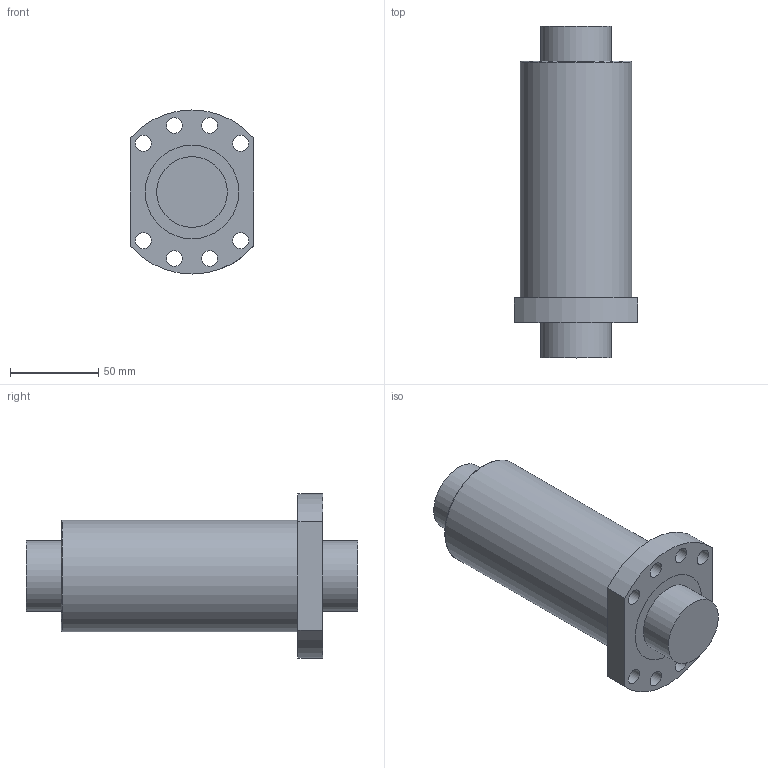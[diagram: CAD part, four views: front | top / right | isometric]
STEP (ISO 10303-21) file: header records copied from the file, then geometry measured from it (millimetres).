
FILE_DESCRIPTION(/* description */ (''),/* implementation_level */ '2;1');
FILE_NAME(/* name */ 'OFU04010-4.stp',/* time_stamp */ '2017-03-13T10:54:32+08:00',/* author */ (''),/* organization */ (''),/* preprocessor_version */ 'ST-DEVELOPER v11',/* originating_system */ 'SIEMENS UGS NX 6.0',/* authorisation */ '');
FILE_SCHEMA (('CONFIG_CONTROL_DESIGN'));
Length unit declared in the file: millimetre
Products named in the file (1): OFU04010-4
Bounding box: 70 x 188 x 93 mm (x, y, z)
Volume: 541894 mm3; surface area: 93617.8 mm2
Topology: 4 solids, 4 shells, 36 faces, 80 edges, 56 vertices
Faces by surface type: cylinder 21, plane 14, torus 1
Full cylindrical faces by diameter (mm): 4 x1, 7 x1, 9 x8, 40 x4, 53 x4, 63 x1
Entity records: 1086 total; most frequent: CARTESIAN_POINT 249, DIRECTION 164, ORIENTED_EDGE 102, EDGE_LOOP 84, FACE_BOUND 79, AXIS2_PLACEMENT_3D 78, EDGE_CURVE 51, VERTEX_POINT 47
